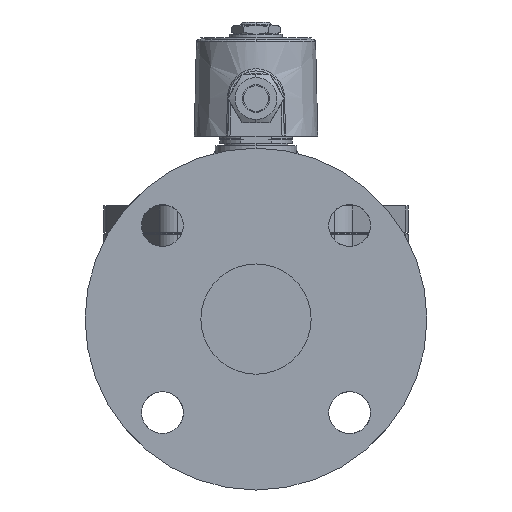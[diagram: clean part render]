
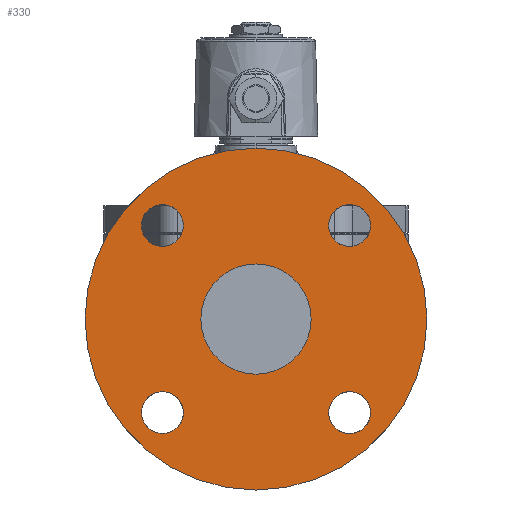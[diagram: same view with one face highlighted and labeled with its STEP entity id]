
A CAD part, left-side view. The second image highlights one B-rep face of the part: STEP entity #330.
In plain terms, the highlighted planar face has unit normal (-1, 0, 0).
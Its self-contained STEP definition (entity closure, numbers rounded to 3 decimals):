
#330=ADVANCED_FACE('',(#2033,#2034,#2035,#2036,#2037,#2038),#2032,.F.);
#2032=PLANE('',#5845);
#2033=FACE_OUTER_BOUND('',#5846,.T.);
#2034=FACE_BOUND('',#5847,.T.);
#2035=FACE_BOUND('',#5848,.T.);
#2036=FACE_BOUND('',#5849,.T.);
#2037=FACE_BOUND('',#5850,.T.);
#2038=FACE_BOUND('',#5851,.T.);
#5842=CARTESIAN_POINT('',(-97.5,-144.234,87.5));
#5843=DIRECTION('',(1.,0.,0.));
#5844=DIRECTION('',(0.,0.,-1.));
#5845=AXIS2_PLACEMENT_3D('',#5842,#5843,#5844);
#5846=EDGE_LOOP('',(#8651,#8652));
#5847=EDGE_LOOP('',(#8653,#8654));
#5848=EDGE_LOOP('',(#8655,#8656));
#5849=EDGE_LOOP('',(#8657,#8658));
#5850=EDGE_LOOP('',(#8659,#8660));
#5851=EDGE_LOOP('',(#8661,#8662));
#8651=ORIENTED_EDGE('',*,*,#10269,.T.);
#8652=ORIENTED_EDGE('',*,*,#10270,.T.);
#8653=ORIENTED_EDGE('',*,*,#10271,.F.);
#8654=ORIENTED_EDGE('',*,*,#10272,.F.);
#8655=ORIENTED_EDGE('',*,*,#10273,.F.);
#8656=ORIENTED_EDGE('',*,*,#10274,.F.);
#8657=ORIENTED_EDGE('',*,*,#10275,.F.);
#8658=ORIENTED_EDGE('',*,*,#10276,.F.);
#8659=ORIENTED_EDGE('',*,*,#10277,.F.);
#8660=ORIENTED_EDGE('',*,*,#10278,.F.);
#8661=ORIENTED_EDGE('',*,*,#10279,.F.);
#8662=ORIENTED_EDGE('',*,*,#10280,.F.);
#10269=EDGE_CURVE('',#13040,#13041,#13042,.T.);
#10270=EDGE_CURVE('',#13041,#13040,#13048,.T.);
#10271=EDGE_CURVE('',#13054,#13055,#13056,.T.);
#10272=EDGE_CURVE('',#13055,#13054,#13062,.T.);
#10273=EDGE_CURVE('',#13068,#13069,#13070,.T.);
#10274=EDGE_CURVE('',#13069,#13068,#13076,.T.);
#10275=EDGE_CURVE('',#13082,#13083,#13084,.T.);
#10276=EDGE_CURVE('',#13083,#13082,#13090,.T.);
#10277=EDGE_CURVE('',#13096,#13097,#13098,.T.);
#10278=EDGE_CURVE('',#13097,#13096,#13104,.T.);
#10279=EDGE_CURVE('',#13110,#13111,#13112,.T.);
#10280=EDGE_CURVE('',#13111,#13110,#13118,.T.);
#13040=VERTEX_POINT('',#18854);
#13041=VERTEX_POINT('',#18855);
#13042=CIRCLE('',#18859,77.5);
#13048=CIRCLE('',#18863,77.5);
#13054=VERTEX_POINT('',#18864);
#13055=VERTEX_POINT('',#18865);
#13056=(BOUNDED_CURVE() B_SPLINE_CURVE(2,(#18866,#18867,#18868,#18869,#18870),.UNSPECIFIED.,.F.,.F.) B_SPLINE_CURVE_WITH_KNOTS((3,2,3),(0.,0.5,1.),.UNSPECIFIED.) CURVE() GEOMETRIC_REPRESENTATION_ITEM() RATIONAL_B_SPLINE_CURVE((1.,0.707,1.,0.707,1.)) REPRESENTATION_ITEM('') );
#13062=(BOUNDED_CURVE() B_SPLINE_CURVE(2,(#18871,#18872,#18873,#18874,#18875),.UNSPECIFIED.,.F.,.F.) B_SPLINE_CURVE_WITH_KNOTS((3,2,3),(0.,0.5,1.),.UNSPECIFIED.) CURVE() GEOMETRIC_REPRESENTATION_ITEM() RATIONAL_B_SPLINE_CURVE((1.,0.707,1.,0.707,1.)) REPRESENTATION_ITEM('') );
#13068=VERTEX_POINT('',#18876);
#13069=VERTEX_POINT('',#18877);
#13070=CIRCLE('',#18881,9.5);
#13076=CIRCLE('',#18885,9.5);
#13082=VERTEX_POINT('',#18886);
#13083=VERTEX_POINT('',#18887);
#13084=(BOUNDED_CURVE() B_SPLINE_CURVE(2,(#18888,#18889,#18890,#18891,#18892),.UNSPECIFIED.,.F.,.F.) B_SPLINE_CURVE_WITH_KNOTS((3,2,3),(0.,0.5,1.),.UNSPECIFIED.) CURVE() GEOMETRIC_REPRESENTATION_ITEM() RATIONAL_B_SPLINE_CURVE((1.,0.707,1.,0.707,1.)) REPRESENTATION_ITEM('') );
#13090=(BOUNDED_CURVE() B_SPLINE_CURVE(2,(#18893,#18894,#18895,#18896,#18897),.UNSPECIFIED.,.F.,.F.) B_SPLINE_CURVE_WITH_KNOTS((3,2,3),(0.,0.5,1.),.UNSPECIFIED.) CURVE() GEOMETRIC_REPRESENTATION_ITEM() RATIONAL_B_SPLINE_CURVE((1.,0.707,1.,0.707,1.)) REPRESENTATION_ITEM('') );
#13096=VERTEX_POINT('',#18898);
#13097=VERTEX_POINT('',#18899);
#13098=CIRCLE('',#18903,25.);
#13104=CIRCLE('',#18907,25.);
#13110=VERTEX_POINT('',#18908);
#13111=VERTEX_POINT('',#18909);
#13112=(BOUNDED_CURVE() B_SPLINE_CURVE(2,(#18910,#18911,#18912,#18913,#18914),.UNSPECIFIED.,.F.,.F.) B_SPLINE_CURVE_WITH_KNOTS((3,2,3),(0.,0.5,1.),.UNSPECIFIED.) CURVE() GEOMETRIC_REPRESENTATION_ITEM() RATIONAL_B_SPLINE_CURVE((1.,0.707,1.,0.707,1.)) REPRESENTATION_ITEM('') );
#13118=(BOUNDED_CURVE() B_SPLINE_CURVE(2,(#18915,#18916,#18917,#18918,#18919),.UNSPECIFIED.,.F.,.F.) B_SPLINE_CURVE_WITH_KNOTS((3,2,3),(0.,0.5,1.),.UNSPECIFIED.) CURVE() GEOMETRIC_REPRESENTATION_ITEM() RATIONAL_B_SPLINE_CURVE((1.,0.707,1.,0.707,1.)) REPRESENTATION_ITEM('') );
#18854=CARTESIAN_POINT('',(-97.5,0.,77.5));
#18855=CARTESIAN_POINT('',(-97.5,0.,-77.5));
#18856=CARTESIAN_POINT('',(-97.5,0.,0.));
#18857=DIRECTION('',(-1.,0.,0.));
#18858=DIRECTION('',(0.,0.,1.));
#18859=AXIS2_PLACEMENT_3D('',#18856,#18857,#18858);
#18860=CARTESIAN_POINT('',(-97.5,0.,0.));
#18861=DIRECTION('',(-1.,0.,0.));
#18862=DIRECTION('',(0.,0.,1.));
#18863=AXIS2_PLACEMENT_3D('',#18860,#18861,#18862);
#18864=CARTESIAN_POINT('',(-97.5,42.421,51.926));
#18865=CARTESIAN_POINT('',(-97.5,42.432,32.926));
#18866=CARTESIAN_POINT('',(-97.5,42.421,51.926));
#18867=CARTESIAN_POINT('',(-97.5,51.924,51.932));
#18868=CARTESIAN_POINT('',(-97.5,51.926,42.429));
#18869=CARTESIAN_POINT('',(-97.5,51.929,32.926));
#18870=CARTESIAN_POINT('',(-97.5,42.432,32.926));
#18871=CARTESIAN_POINT('',(-97.5,42.432,32.926));
#18872=CARTESIAN_POINT('',(-97.5,32.929,32.926));
#18873=CARTESIAN_POINT('',(-97.5,32.926,42.424));
#18874=CARTESIAN_POINT('',(-97.5,32.924,51.921));
#18875=CARTESIAN_POINT('',(-97.5,42.421,51.926));
#18876=CARTESIAN_POINT('',(-97.5,42.423,-32.926));
#18877=CARTESIAN_POINT('',(-97.5,42.426,-51.926));
#18878=CARTESIAN_POINT('',(-97.5,42.426,-42.426));
#18879=DIRECTION('',(-1.,0.,0.));
#18880=DIRECTION('',(0.,0.,-1.));
#18881=AXIS2_PLACEMENT_3D('',#18878,#18879,#18880);
#18882=CARTESIAN_POINT('',(-97.5,42.426,-42.426));
#18883=DIRECTION('',(-1.,0.,0.));
#18884=DIRECTION('',(0.,0.,-1.));
#18885=AXIS2_PLACEMENT_3D('',#18882,#18883,#18884);
#18886=CARTESIAN_POINT('',(-97.5,-42.432,-32.926));
#18887=CARTESIAN_POINT('',(-97.5,-42.421,-51.926));
#18888=CARTESIAN_POINT('',(-97.5,-42.432,-32.926));
#18889=CARTESIAN_POINT('',(-97.5,-32.929,-32.921));
#18890=CARTESIAN_POINT('',(-97.5,-32.926,-42.424));
#18891=CARTESIAN_POINT('',(-97.5,-32.924,-51.926));
#18892=CARTESIAN_POINT('',(-97.5,-42.421,-51.926));
#18893=CARTESIAN_POINT('',(-97.5,-42.421,-51.926));
#18894=CARTESIAN_POINT('',(-97.5,-51.924,-51.926));
#18895=CARTESIAN_POINT('',(-97.5,-51.926,-42.429));
#18896=CARTESIAN_POINT('',(-97.5,-51.929,-32.932));
#18897=CARTESIAN_POINT('',(-97.5,-42.432,-32.926));
#18898=CARTESIAN_POINT('',(-97.5,0.,-25.));
#18899=CARTESIAN_POINT('',(-97.5,0.,25.));
#18900=CARTESIAN_POINT('',(-97.5,0.,0.));
#18901=DIRECTION('',(-1.,0.,0.));
#18902=DIRECTION('',(0.,0.,1.));
#18903=AXIS2_PLACEMENT_3D('',#18900,#18901,#18902);
#18904=CARTESIAN_POINT('',(-97.5,0.,0.));
#18905=DIRECTION('',(-1.,0.,0.));
#18906=DIRECTION('',(0.,0.,1.));
#18907=AXIS2_PLACEMENT_3D('',#18904,#18905,#18906);
#18908=CARTESIAN_POINT('',(-97.5,-42.432,51.926));
#18909=CARTESIAN_POINT('',(-97.5,-42.421,32.926));
#18910=CARTESIAN_POINT('',(-97.5,-42.432,51.926));
#18911=CARTESIAN_POINT('',(-97.5,-32.929,51.932));
#18912=CARTESIAN_POINT('',(-97.5,-32.926,42.429));
#18913=CARTESIAN_POINT('',(-97.5,-32.924,32.926));
#18914=CARTESIAN_POINT('',(-97.5,-42.421,32.926));
#18915=CARTESIAN_POINT('',(-97.5,-42.421,32.926));
#18916=CARTESIAN_POINT('',(-97.5,-51.924,32.926));
#18917=CARTESIAN_POINT('',(-97.5,-51.926,42.424));
#18918=CARTESIAN_POINT('',(-97.5,-51.929,51.921));
#18919=CARTESIAN_POINT('',(-97.5,-42.432,51.926));
